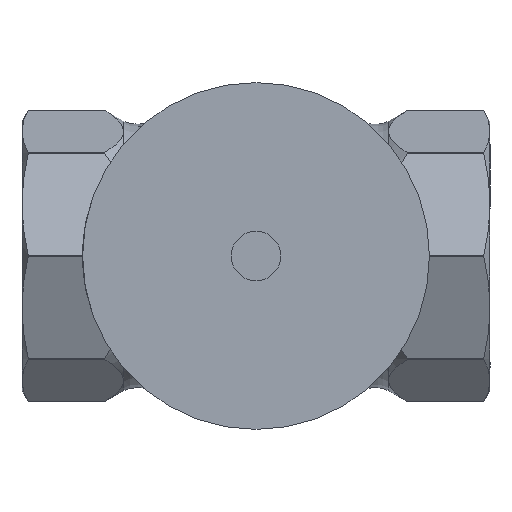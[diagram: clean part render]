
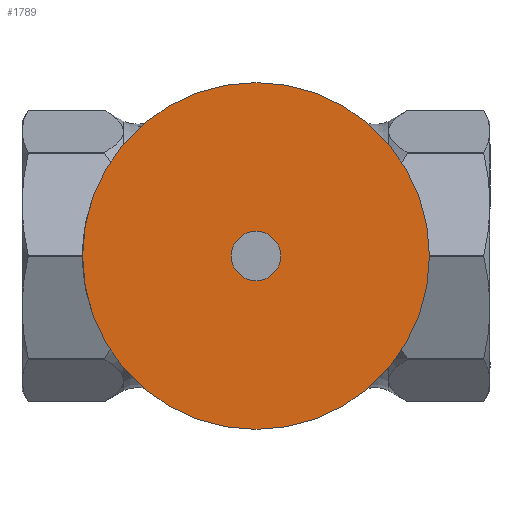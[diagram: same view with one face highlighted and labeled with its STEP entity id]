
A CAD part, front view. The second image highlights one B-rep face of the part: STEP entity #1789.
In plain terms, the highlighted planar face has unit normal (0, -1, 0) as drawn and (0, 1, 0) by its records, which use the part's own axes.
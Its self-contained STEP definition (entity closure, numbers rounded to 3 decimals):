
#205=PLANE('',#1947);
#316=FACE_BOUND('',#543,.T.);
#390=FACE_OUTER_BOUND('',#542,.T.);
#542=EDGE_LOOP('',(#1298));
#543=EDGE_LOOP('',(#1299));
#740=CIRCLE('',#1948,31.5);
#741=CIRCLE('',#1949,4.5);
#870=VERTEX_POINT('',#2806);
#871=VERTEX_POINT('',#2808);
#1045=EDGE_CURVE('',#870,#870,#740,.T.);
#1046=EDGE_CURVE('',#871,#871,#741,.T.);
#1298=ORIENTED_EDGE('',*,*,#1045,.T.);
#1299=ORIENTED_EDGE('',*,*,#1046,.F.);
#1789=ADVANCED_FACE('',(#390,#316),#205,.T.);
#1947=AXIS2_PLACEMENT_3D('',#2805,#2246,#2247);
#1948=AXIS2_PLACEMENT_3D('',#2807,#2248,#2249);
#1949=AXIS2_PLACEMENT_3D('',#2809,#2250,#2251);
#2246=DIRECTION('center_axis',(0.,1.,0.));
#2247=DIRECTION('ref_axis',(0.,0.,1.));
#2248=DIRECTION('center_axis',(0.,1.,0.));
#2249=DIRECTION('ref_axis',(-1.,0.,0.));
#2250=DIRECTION('center_axis',(0.,1.,0.));
#2251=DIRECTION('ref_axis',(-1.,0.,0.));
#2805=CARTESIAN_POINT('Origin',(-18.,17.,0.));
#2806=CARTESIAN_POINT('',(-31.5,17.,0.));
#2807=CARTESIAN_POINT('Origin',(0.,17.,0.));
#2808=CARTESIAN_POINT('',(-4.5,17.,0.));
#2809=CARTESIAN_POINT('Origin',(0.,17.,0.));
